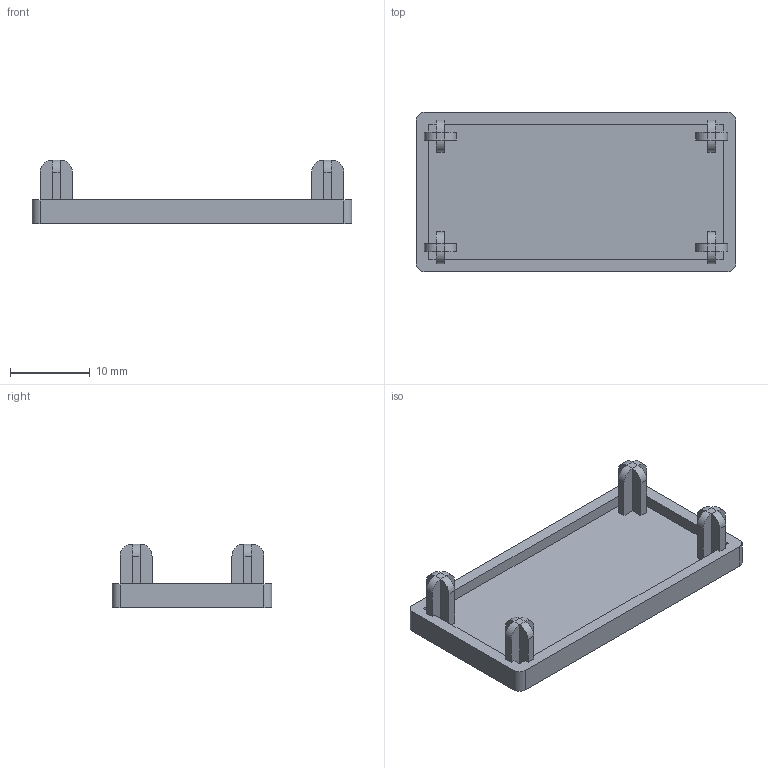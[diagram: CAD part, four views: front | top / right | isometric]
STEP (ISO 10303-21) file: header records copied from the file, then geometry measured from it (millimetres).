
FILE_DESCRIPTION (( 'STEP AP203' ), '1' );
FILE_NAME ('EC2040-4.STEP', '2024-02-17T06:15:03', ( '' ), ( '' ), 'SwSTEP 2.0', 'SolidWorks 2022', '' );
FILE_SCHEMA (( 'CONFIG_CONTROL_DESIGN' ));
Length unit declared in the file: millimetre
Products named in the file (1): EC2040-4
Bounding box: 40 x 20 x 8 mm (x, y, z)
Volume: 1622.2 mm3; surface area: 2469.4 mm2
Topology: 1 solids, 1 shells, 95 faces, 244 edges, 152 vertices
Faces by surface type: plane 75, cylinder 20
Entity records: 2899 total; most frequent: CARTESIAN_POINT 492, ORIENTED_EDGE 488, DIRECTION 476, EDGE_CURVE 244, VECTOR 204, LINE 204, VERTEX_POINT 152, AXIS2_PLACEMENT_3D 136
